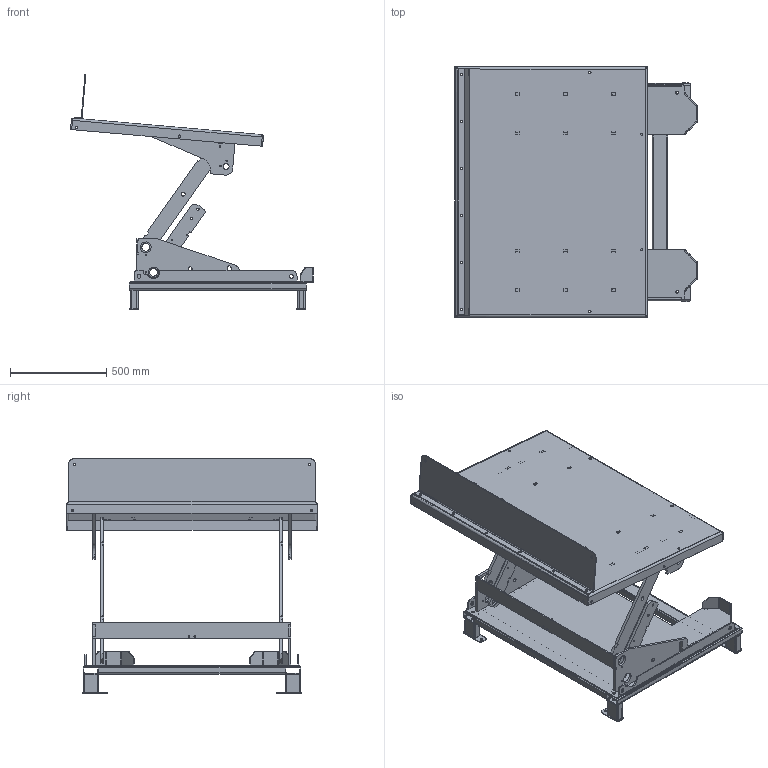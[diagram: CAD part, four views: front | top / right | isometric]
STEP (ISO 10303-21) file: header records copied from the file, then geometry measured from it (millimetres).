
FILE_DESCRIPTION(/* description */ (''),/* implementation_level */ '2;1');
FILE_NAME(/* name */ 'C:\Autodesk_VaultWork\Ritningar\Exporterade modeller\ART 1500GV - (22113)\22113_Raised_+5Degrees.stp',/* time_stamp */ '2019-12-20T12:04:34+01:00',/* author */ ('johso'),/* organization */ (''),/* preprocessor_version */ 'ST-DEVELOPER v16.5',/* originating_system */ 'Autodesk Inventor 2017',/* authorisation */ '');
FILE_SCHEMA (('AUTOMOTIVE_DESIGN { 1 0 10303 214 3 1 1 }'));
Length unit declared in the file: millimetre
Products named in the file (9): Assembly23; 22023_Raised_+5Degrees; 35398; 45274; 82153 - 96; 45273-1; 82153 - 968; 82153 - 917; 82153 - 917_1
Assembly tree (12 placements, depth 4):
  Assembly23
    22023_Raised_+5Degrees
    35398
      45274  x4
        82153 - 96
        45273-1
      82153 - 968  x2
      82153 - 917
      82153 - 917_1
Bounding box: 1260.38 x 1300 x 1217.65 mm (x, y, z)
Volume: 26499138.9 mm3; surface area: 8943912.5 mm2
Topology: 28 solids, 28 shells, 1634 faces, 4670 edges, 3096 vertices
Faces by surface type: cylinder 1004, plane 622, bspline 8
Full cylindrical faces by diameter (mm): 5.7 x2, 6.9 x4, 7.4 x16, 8.5 x2, 11 x4, 12 x12, 12.5 x12, 13 x12, 15 x4, 20 x6, 30.2 x4
Entity records: 49642 total; most frequent: DIRECTION 8968, CARTESIAN_POINT 8786, ORIENTED_EDGE 8316, EDGE_CURVE 4158, AXIS2_PLACEMENT_3D 3332, VERTEX_POINT 2798, LINE 2304, VECTOR 2304
